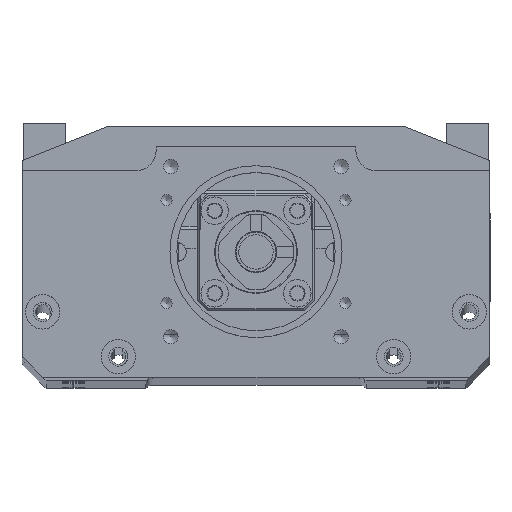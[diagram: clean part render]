
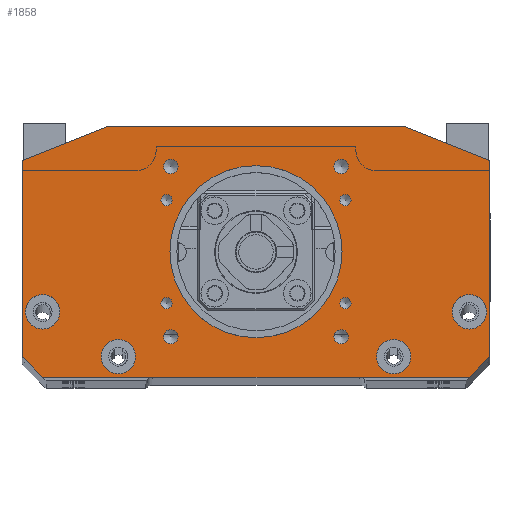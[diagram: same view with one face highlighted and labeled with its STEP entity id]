
A CAD part, top view. The second image highlights one B-rep face of the part: STEP entity #1858.
In plain terms, the highlighted planar face has unit normal (0, 0, 1).
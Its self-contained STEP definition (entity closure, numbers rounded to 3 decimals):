
#396=FACE_BOUND('',#3698,.T.);
#397=FACE_BOUND('',#3699,.T.);
#398=FACE_BOUND('',#3700,.T.);
#399=FACE_BOUND('',#3701,.T.);
#400=FACE_BOUND('',#3702,.T.);
#401=FACE_BOUND('',#3703,.T.);
#402=FACE_BOUND('',#3704,.T.);
#403=FACE_BOUND('',#3705,.T.);
#404=FACE_BOUND('',#3706,.T.);
#405=FACE_BOUND('',#3707,.T.);
#406=FACE_BOUND('',#3708,.T.);
#407=FACE_BOUND('',#3709,.T.);
#408=FACE_BOUND('',#3710,.T.);
#409=FACE_BOUND('',#3711,.T.);
#1858=ADVANCED_FACE('9',(#396,#397,#398,#399,#400,#401,#402,#403,#404,#405,
#406,#407,#408,#409),#2528,.T.);
#2528=PLANE('',#15617);
#3698=EDGE_LOOP('',(#6952));
#3699=EDGE_LOOP('',(#6953));
#3700=EDGE_LOOP('',(#6954));
#3701=EDGE_LOOP('',(#6955));
#3702=EDGE_LOOP('',(#6956));
#3703=EDGE_LOOP('',(#6957));
#3704=EDGE_LOOP('',(#6958));
#3705=EDGE_LOOP('',(#6959));
#3706=EDGE_LOOP('',(#6960));
#3707=EDGE_LOOP('',(#6961));
#3708=EDGE_LOOP('',(#6962));
#3709=EDGE_LOOP('',(#6963));
#3710=EDGE_LOOP('',(#6964));
#3711=EDGE_LOOP('',(#6965,#6966,#6967,#6968,#6969,#6970,#6971,#6972));
#4936=CIRCLE('',#15555,1.65);
#4938=CIRCLE('',#15559,1.65);
#4940=CIRCLE('',#15563,1.65);
#4942=CIRCLE('',#15567,1.65);
#4944=CIRCLE('',#15571,2.1);
#4946=CIRCLE('',#15575,2.1);
#4948=CIRCLE('',#15579,2.1);
#4950=CIRCLE('',#15583,2.1);
#4952=CIRCLE('',#15587,25.);
#4954=CIRCLE('',#15590,5.);
#4958=CIRCLE('',#15596,5.);
#4962=CIRCLE('',#15602,5.);
#4966=CIRCLE('',#15608,5.);
#6952=ORIENTED_EDGE('',*,*,#11927,.F.);
#6953=ORIENTED_EDGE('',*,*,#11929,.F.);
#6954=ORIENTED_EDGE('',*,*,#11931,.F.);
#6955=ORIENTED_EDGE('',*,*,#11933,.F.);
#6956=ORIENTED_EDGE('',*,*,#11935,.F.);
#6957=ORIENTED_EDGE('',*,*,#11937,.F.);
#6958=ORIENTED_EDGE('',*,*,#11939,.F.);
#6959=ORIENTED_EDGE('',*,*,#11941,.F.);
#6960=ORIENTED_EDGE('',*,*,#11943,.F.);
#6961=ORIENTED_EDGE('',*,*,#11945,.F.);
#6962=ORIENTED_EDGE('',*,*,#11949,.F.);
#6963=ORIENTED_EDGE('',*,*,#11953,.F.);
#6964=ORIENTED_EDGE('',*,*,#11957,.F.);
#6965=ORIENTED_EDGE('',*,*,#11280,.F.);
#6966=ORIENTED_EDGE('',*,*,#11966,.T.);
#6967=ORIENTED_EDGE('',*,*,#11965,.F.);
#6968=ORIENTED_EDGE('',*,*,#11967,.T.);
#6969=ORIENTED_EDGE('',*,*,#11333,.F.);
#6970=ORIENTED_EDGE('',*,*,#11320,.T.);
#6971=ORIENTED_EDGE('',*,*,#11306,.F.);
#6972=ORIENTED_EDGE('',*,*,#11291,.T.);
#9758=VERTEX_POINT('',#21767);
#9759=VERTEX_POINT('',#21769);
#9765=VERTEX_POINT('',#21788);
#9775=VERTEX_POINT('',#21816);
#9783=VERTEX_POINT('',#21841);
#9791=VERTEX_POINT('',#21864);
#10177=VERTEX_POINT('',#24402);
#10180=VERTEX_POINT('',#24409);
#10183=VERTEX_POINT('',#24416);
#10186=VERTEX_POINT('',#24423);
#10189=VERTEX_POINT('',#24430);
#10192=VERTEX_POINT('',#24437);
#10195=VERTEX_POINT('',#24444);
#10198=VERTEX_POINT('',#24451);
#10201=VERTEX_POINT('',#24458);
#10203=VERTEX_POINT('',#24463);
#10206=VERTEX_POINT('',#24472);
#10209=VERTEX_POINT('',#24481);
#10212=VERTEX_POINT('',#24490);
#10216=VERTEX_POINT('',#24502);
#10218=VERTEX_POINT('',#24506);
#11280=EDGE_CURVE('',#9758,#9759,#13138,.T.);
#11291=EDGE_CURVE('',#9765,#9759,#13147,.T.);
#11306=EDGE_CURVE('',#9765,#9775,#13160,.T.);
#11320=EDGE_CURVE('',#9783,#9775,#13172,.T.);
#11333=EDGE_CURVE('',#9783,#9791,#13183,.T.);
#11927=EDGE_CURVE('',#10177,#10177,#4936,.T.);
#11929=EDGE_CURVE('',#10180,#10180,#4938,.T.);
#11931=EDGE_CURVE('',#10183,#10183,#4940,.T.);
#11933=EDGE_CURVE('',#10186,#10186,#4942,.T.);
#11935=EDGE_CURVE('',#10189,#10189,#4944,.T.);
#11937=EDGE_CURVE('',#10192,#10192,#4946,.T.);
#11939=EDGE_CURVE('',#10195,#10195,#4948,.T.);
#11941=EDGE_CURVE('',#10198,#10198,#4950,.T.);
#11943=EDGE_CURVE('',#10201,#10201,#4952,.T.);
#11945=EDGE_CURVE('',#10203,#10203,#4954,.T.);
#11949=EDGE_CURVE('',#10206,#10206,#4958,.T.);
#11953=EDGE_CURVE('',#10209,#10209,#4962,.T.);
#11957=EDGE_CURVE('',#10212,#10212,#4966,.T.);
#11965=EDGE_CURVE('',#10218,#10216,#13464,.T.);
#11966=EDGE_CURVE('',#9758,#10216,#13465,.T.);
#11967=EDGE_CURVE('',#10218,#9791,#13466,.T.);
#13138=LINE('',#21768,#14153);
#13147=LINE('',#21787,#14162);
#13160=LINE('',#21815,#14175);
#13172=LINE('',#21840,#14187);
#13183=LINE('',#21863,#14198);
#13464=LINE('',#24507,#14479);
#13465=LINE('',#24509,#14480);
#13466=LINE('',#24510,#14481);
#14153=VECTOR('',#17271,1.);
#14162=VECTOR('',#17288,1.);
#14175=VECTOR('',#17311,1.);
#14187=VECTOR('',#17333,1.);
#14198=VECTOR('',#17352,1.);
#14479=VECTOR('',#18519,1.);
#14480=VECTOR('',#18522,1.);
#14481=VECTOR('',#18523,1.);
#15555=AXIS2_PLACEMENT_3D('',#24401,#18394,#18395);
#15559=AXIS2_PLACEMENT_3D('',#24408,#18402,#18403);
#15563=AXIS2_PLACEMENT_3D('',#24415,#18410,#18411);
#15567=AXIS2_PLACEMENT_3D('',#24422,#18418,#18419);
#15571=AXIS2_PLACEMENT_3D('',#24429,#18426,#18427);
#15575=AXIS2_PLACEMENT_3D('',#24436,#18434,#18435);
#15579=AXIS2_PLACEMENT_3D('',#24443,#18442,#18443);
#15583=AXIS2_PLACEMENT_3D('',#24450,#18450,#18451);
#15587=AXIS2_PLACEMENT_3D('',#24457,#18458,#18459);
#15590=AXIS2_PLACEMENT_3D('',#24462,#18464,#18465);
#15596=AXIS2_PLACEMENT_3D('',#24471,#18476,#18477);
#15602=AXIS2_PLACEMENT_3D('',#24480,#18488,#18489);
#15608=AXIS2_PLACEMENT_3D('',#24489,#18500,#18501);
#15617=AXIS2_PLACEMENT_3D('',#24511,#18524,#18525);
#17271=DIRECTION('',(0.,-1.,0.));
#17288=DIRECTION('',(0.707,0.707,0.));
#17311=DIRECTION('',(-1.,0.,0.));
#17333=DIRECTION('',(0.707,-0.707,0.));
#17352=DIRECTION('',(0.,1.,0.));
#18394=DIRECTION('',(0.,0.,1.));
#18395=DIRECTION('',(1.,0.,0.));
#18402=DIRECTION('',(0.,0.,1.));
#18403=DIRECTION('',(1.,0.,0.));
#18410=DIRECTION('',(0.,0.,1.));
#18411=DIRECTION('',(1.,0.,0.));
#18418=DIRECTION('',(0.,0.,1.));
#18419=DIRECTION('',(1.,0.,0.));
#18426=DIRECTION('',(0.,0.,1.));
#18427=DIRECTION('',(1.,0.,0.));
#18434=DIRECTION('',(0.,0.,1.));
#18435=DIRECTION('',(1.,0.,0.));
#18442=DIRECTION('',(0.,0.,1.));
#18443=DIRECTION('',(1.,0.,0.));
#18450=DIRECTION('',(0.,0.,1.));
#18451=DIRECTION('',(1.,0.,0.));
#18458=DIRECTION('',(0.,0.,1.));
#18459=DIRECTION('',(1.,0.,0.));
#18464=DIRECTION('',(0.,0.,1.));
#18465=DIRECTION('',(1.,0.,0.));
#18476=DIRECTION('',(0.,0.,1.));
#18477=DIRECTION('',(1.,0.,0.));
#18488=DIRECTION('',(0.,0.,1.));
#18489=DIRECTION('',(1.,0.,0.));
#18500=DIRECTION('',(0.,0.,1.));
#18501=DIRECTION('',(1.,0.,0.));
#18519=DIRECTION('',(1.,0.,0.));
#18522=DIRECTION('',(-0.928,0.371,0.));
#18523=DIRECTION('',(-0.928,-0.371,0.));
#18524=DIRECTION('',(0.,0.,1.));
#18525=DIRECTION('',(-1.,0.,0.));
#21767=CARTESIAN_POINT('',(68.,63.,180.));
#21768=CARTESIAN_POINT('',(68.,0.,180.));
#21769=CARTESIAN_POINT('',(68.,6.,180.));
#21787=CARTESIAN_POINT('',(49.25,-12.75,180.));
#21788=CARTESIAN_POINT('',(62.,0.,180.));
#21815=CARTESIAN_POINT('',(68.,0.,180.));
#21816=CARTESIAN_POINT('',(-62.,0.,180.));
#21840=CARTESIAN_POINT('',(-49.25,-12.75,180.));
#21841=CARTESIAN_POINT('',(-68.,6.,180.));
#21863=CARTESIAN_POINT('',(-68.,0.,180.));
#21864=CARTESIAN_POINT('',(-68.,63.,180.));
#24401=CARTESIAN_POINT('',(25.981,51.5,180.));
#24402=CARTESIAN_POINT('',(27.631,51.5,180.));
#24408=CARTESIAN_POINT('',(25.981,21.5,180.));
#24409=CARTESIAN_POINT('',(27.631,21.5,180.));
#24415=CARTESIAN_POINT('',(-25.981,21.5,180.));
#24416=CARTESIAN_POINT('',(-24.331,21.5,180.));
#24422=CARTESIAN_POINT('',(-25.981,51.5,180.));
#24423=CARTESIAN_POINT('',(-24.331,51.5,180.));
#24429=CARTESIAN_POINT('',(-24.749,61.249,180.));
#24430=CARTESIAN_POINT('',(-22.649,61.249,180.));
#24436=CARTESIAN_POINT('',(24.749,61.249,180.));
#24437=CARTESIAN_POINT('',(26.849,61.249,180.));
#24443=CARTESIAN_POINT('',(24.749,11.751,180.));
#24444=CARTESIAN_POINT('',(26.849,11.751,180.));
#24450=CARTESIAN_POINT('',(-24.749,11.751,180.));
#24451=CARTESIAN_POINT('',(-22.649,11.751,180.));
#24457=CARTESIAN_POINT('',(0.,36.5,180.));
#24458=CARTESIAN_POINT('',(25.,36.5,180.));
#24462=CARTESIAN_POINT('',(-62.,19.,180.));
#24463=CARTESIAN_POINT('',(-57.,19.,180.));
#24471=CARTESIAN_POINT('',(62.,19.,180.));
#24472=CARTESIAN_POINT('',(67.,19.,180.));
#24480=CARTESIAN_POINT('',(-40.,6.,180.));
#24481=CARTESIAN_POINT('',(-35.,6.,180.));
#24489=CARTESIAN_POINT('',(40.,6.,180.));
#24490=CARTESIAN_POINT('',(45.,6.,180.));
#24502=CARTESIAN_POINT('',(43.,73.,180.));
#24506=CARTESIAN_POINT('',(-43.,73.,180.));
#24507=CARTESIAN_POINT('',(68.,73.,180.));
#24509=CARTESIAN_POINT('',(18.517,82.793,180.));
#24510=CARTESIAN_POINT('',(-18.517,82.793,180.));
#24511=CARTESIAN_POINT('',(0.,36.5,180.));
